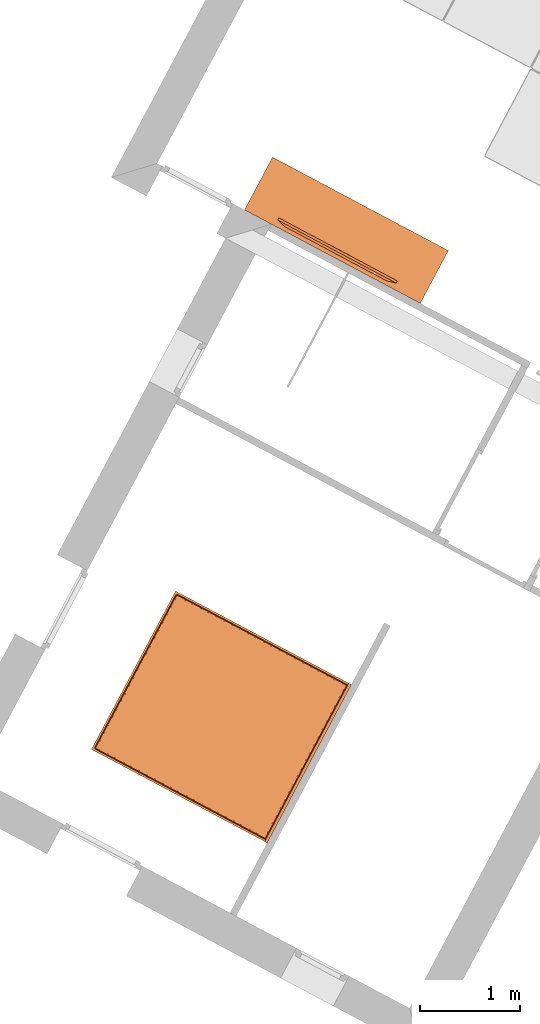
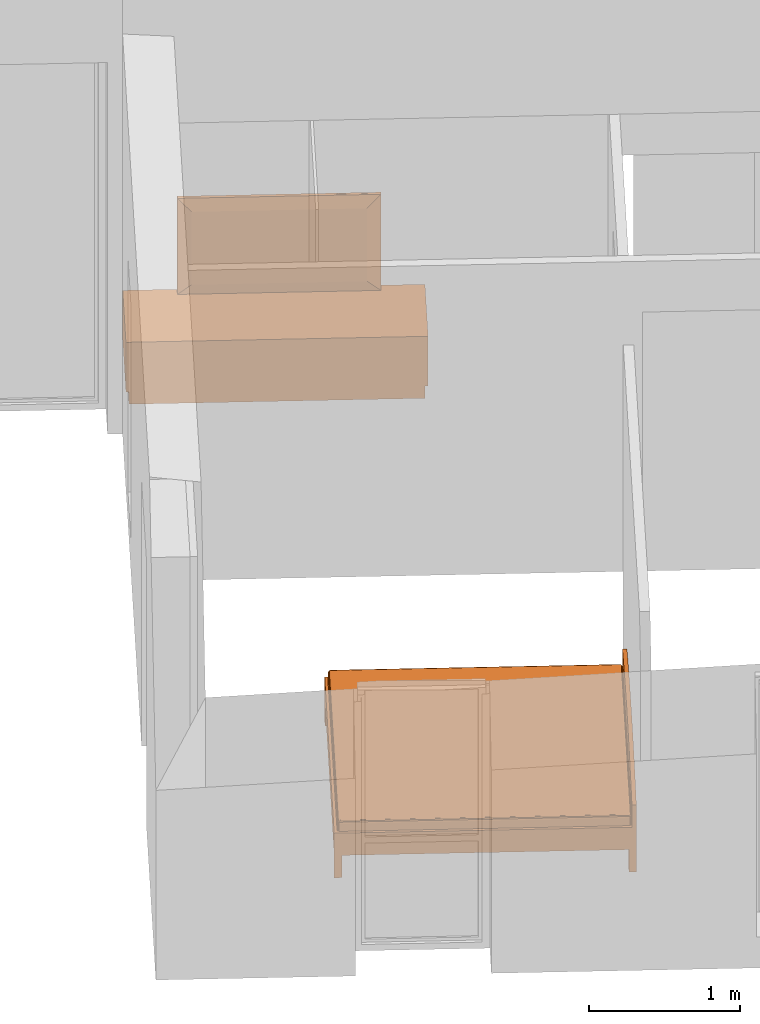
# One storey, part 18 of 27: 3 proxies.
"""IFC2X3 building model written with IfcOpenShell, lengths in metres."""

import ifcopenshell
import ifcopenshell.guid

model = None  # the IFC model being written
_history = None  # IfcOwnerHistory: only IFC2X3 demands one
_inside = {}  # id of a spatial element -> (the spatial element, [elements in it])
_under = {}  # id of a project, library or spatial element -> (it, [spatial elements below it])
_declared = {}  # id of a project -> (the project, [libraries it declares])
_typed = {}  # id of a type object -> (the type object, [elements of that type])
_made_of = {}  # id of a material, layer set ... -> (it, [elements and type objects made of it])


def new_model(schema):
    """Start an empty IFC model of exactly this schema.

    Asked for "IFC4X3", IfcOpenShell would pick the latest addendum, in which some entities
    have other attributes; the version numbers below select the first issue.
    IFC2X3 requires an IfcOwnerHistory on every rooted entity: one is made here for all.
    """
    global model, _history
    if schema == "IFC4X3":
        model = ifcopenshell.file(schema_version=(4, 3, 0, 0))
    else:
        model = ifcopenshell.file(schema=schema)
    _inside.clear()
    _under.clear()
    _declared.clear()
    _typed.clear()
    _made_of.clear()
    _history = None
    if model.schema == "IFC2X3":
        org = make("IfcOrganization", Name="unknown")
        user = make(
            "IfcPersonAndOrganization",
            ThePerson=make("IfcPerson", FamilyName="unknown"),
            TheOrganization=org,
        )
        app = make(
            "IfcApplication",
            ApplicationDeveloper=org,
            Version="unknown",
            ApplicationFullName="unknown",
            ApplicationIdentifier="unknown",
        )
        _history = make(
            "IfcOwnerHistory",
            OwningUser=user,
            OwningApplication=app,
            ChangeAction="ADDED",
            CreationDate=0,
        )
    return model


def make(cls, **values):
    """One entity of the class cls with the attributes given. An attribute that is None is left unset."""
    return model.create_entity(
        cls, **{name: value for name, value in values.items() if value is not None}
    )


def entity(cls, *values):
    """Any entity or typed value of the class cls, its attributes in the order of the schema. None: left unset."""
    e = model.create_entity(cls)
    for i, value in enumerate(values):
        if value is not None:
            e[i] = value
    return e


def rooted(cls, **values):
    """An entity with a GlobalId (a new one), such as an element, a storey or a relation."""
    return make(cls, GlobalId=ifcopenshell.guid.new(), OwnerHistory=_history, **values)


def si_unit(unit_type, name, prefix=None):
    """IfcSIUnit, for example si_unit("LENGTHUNIT", "METRE", prefix="MILLI")."""
    return make("IfcSIUnit", UnitType=unit_type, Prefix=prefix, Name=name)


def converted_unit(unit_type, name, factor, base, dimensions=None, offset=None):
    """IfcConversionBasedUnit, such as the inch: factor (a typed value) times the base unit."""
    return make(
        "IfcConversionBasedUnit"
        if offset is None
        else "IfcConversionBasedUnitWithOffset",
        ConversionOffset=offset,
        Dimensions=None
        if dimensions is None
        else entity("IfcDimensionalExponents", *dimensions),
        UnitType=unit_type,
        Name=name,
        ConversionFactor=make(
            "IfcMeasureWithUnit", ValueComponent=factor, UnitComponent=base
        ),
    )


def derived_unit(unit_type, elements):
    """IfcDerivedUnit: a product of units, each with its exponent."""
    return make(
        "IfcDerivedUnit",
        Elements=[
            make("IfcDerivedUnitElement", Unit=unit, Exponent=power)
            for unit, power in elements
        ],
        UnitType=unit_type,
    )


def money_unit(currency):
    """IfcMonetaryUnit."""
    return make("IfcMonetaryUnit", Currency=currency)


def assignment(units):
    """IfcUnitAssignment: the units of a project."""
    return None if units is None else make("IfcUnitAssignment", Units=units)


def point(xyz):
    """IfcCartesianPoint."""
    return None if xyz is None else make("IfcCartesianPoint", Coordinates=xyz)


def direction(xyz):
    """IfcDirection."""
    return None if xyz is None else make("IfcDirection", DirectionRatios=xyz)


def frame(location, z_axis=None, x_axis=None):
    """IfcAxis2Placement3D, a coordinate frame: its origin and axes. An axis left out is left unset."""
    return make(
        "IfcAxis2Placement3D",
        Location=point(location),
        Axis=direction(z_axis),
        RefDirection=direction(x_axis),
    )


def origin_with_axes():
    """The frame at (0, 0, 0) with the z axis (0, 0, 1) and the x axis (1, 0, 0) written out."""
    return frame((0.0, 0.0, 0.0), z_axis=(0.0, 0.0, 1.0), x_axis=(1.0, 0.0, 0.0))


def place(relative_to, where):
    """IfcLocalPlacement: puts the frame where relative to a parent placement (None: the world)."""
    return make(
        "IfcLocalPlacement", PlacementRelTo=relative_to, RelativePlacement=where
    )


def context(
    kind, dimensions, precision=None, world=None, true_north=None, identifier=None
):
    """IfcGeometricRepresentationContext, for example the 3D "Model" context."""
    return make(
        "IfcGeometricRepresentationContext",
        ContextIdentifier=identifier,
        ContextType=kind,
        CoordinateSpaceDimension=dimensions,
        Precision=precision,
        WorldCoordinateSystem=world,
        TrueNorth=true_north,
    )


def subcontext(parent, identifier, kind, view, scale=None):
    """IfcGeometricRepresentationSubContext, for example "Body" below "Model"."""
    return make(
        "IfcGeometricRepresentationSubContext",
        ContextIdentifier=identifier,
        ContextType=kind,
        ParentContext=parent,
        TargetScale=scale,
        TargetView=view,
    )


def project(units=None, contexts=None):
    """IfcProject with its units and contexts."""
    return rooted(
        "IfcProject",
        Name="project",
        RepresentationContexts=contexts,
        UnitsInContext=assignment(units),
    )


def spatial(cls, under=None, at=None, **own):
    """A site, building, storey or space (cls), placed at a placement, below another one or the project."""
    s = rooted(cls, ObjectPlacement=at, **own)
    if under is not None:
        _under.setdefault(under.id(), (under, []))[1].append(s)
    return s


def faces_of(points, faces, orient=None, outer=None):
    """IfcFace entities. A face is a list of loops; a loop is a list of indices into points, from 0.

    orient and outer hold one flag for each loop. By default every Orientation is true, the
    first loop of a face is its IfcFaceOuterBound and the others are IfcFaceBound.
    """
    made = []
    for i, loops in enumerate(faces):
        bounds = []
        for j, loop in enumerate(loops):
            is_outer = j == 0 if outer is None else outer[i][j]
            bounds.append(
                make(
                    "IfcFaceOuterBound" if is_outer else "IfcFaceBound",
                    Bound=make("IfcPolyLoop", Polygon=[points[k] for k in loop]),
                    Orientation=True if orient is None else orient[i][j],
                )
            )
        made.append(make("IfcFace", Bounds=bounds))
    return made


def faceted_brep(points, faces, orient=None, outer=None, voids=None):
    """IfcFacetedBrep: a solid bounded by flat faces; with voids (closed shells), ...WithVoids."""
    shared = [point(p) for p in points]
    hull = make("IfcClosedShell", CfsFaces=faces_of(shared, faces, orient, outer))
    if voids is None:
        return make("IfcFacetedBrep", Outer=hull)
    return make(
        "IfcFacetedBrepWithVoids",
        Outer=hull,
        Voids=[
            make(cls, CfsFaces=faces_of(shared, fs, o, b)) for cls, fs, o, b in voids
        ],
    )


def shape(context_of_items, identifier, shape_type, items):
    """IfcShapeRepresentation: the items that make up one representation, for example the "Body"."""
    return make(
        "IfcShapeRepresentation",
        ContextOfItems=context_of_items,
        RepresentationIdentifier=identifier,
        RepresentationType=shape_type,
        Items=items,
    )


def made_of(thing, what):
    """Note that an element or type object is made of a material, layer set ...; save() writes the relation."""
    if what is not None:
        _made_of.setdefault(what.id(), (what, []))[1].append(thing)
    return thing


def type_object(cls, material=None, **own):
    """A type object (cls), such as IfcWallType, which elements share."""
    return made_of(rooted(cls, **own), material)


def element(
    cls,
    number,
    at=None,
    inside=None,
    cuts=None,
    type_object=None,
    material=None,
    context=None,
    identifier="Body",
    shape_type=None,
    held_by="IfcProductDefinitionShape",
    body=None,
    shapes=None,
    **own,
):
    """One element of the class cls, such as IfcWall. Its Tag is "e" and its number.

    at: its placement. inside: the storey or other place that contains it. cuts: it is an
    opening in that element (IfcRelVoidsElement). A single representation is given by context,
    identifier, shape_type and body (its items); several are given by shapes. held_by: the class
    of the entity that holds the representations. save() writes the other relations.
    """
    e = rooted(cls, Tag="e%d" % number, ObjectPlacement=at, **own)
    if body is not None:
        shapes = [shape(context, identifier, shape_type, body)]
    if shapes is not None:
        e.Representation = make(held_by, Representations=shapes)
    if inside is not None:
        _inside.setdefault(inside.id(), (inside, []))[1].append(e)
    if cuts is not None:
        rooted(
            "IfcRelVoidsElement", RelatingBuildingElement=cuts, RelatedOpeningElement=e
        )
    if type_object is not None:
        _typed.setdefault(type_object.id(), (type_object, []))[1].append(e)
    return made_of(e, material)


def aggregate(whole, parts):
    """IfcRelAggregates: a whole, such as a stair, and the parts it consists of."""
    return rooted("IfcRelAggregates", RelatingObject=whole, RelatedObjects=parts)


def save(model, path):
    """Write the relations noted so far, then the file.

    IfcRelAggregates (storeys below a building ...), IfcRelContainedInSpatialStructure (elements
    in a storey), IfcRelDefinesByType, IfcRelAssociatesMaterial and IfcRelDeclares: one each for
    every whole, place, type object, material and project.
    """
    for whole, parts in _under.values():
        aggregate(whole, parts)
    for where, things in _inside.values():
        rooted(
            "IfcRelContainedInSpatialStructure",
            RelatedElements=things,
            RelatingStructure=where,
        )
    for kind, things in _typed.values():
        rooted("IfcRelDefinesByType", RelatedObjects=things, RelatingType=kind)
    for what, things in _made_of.values():
        rooted("IfcRelAssociatesMaterial", RelatedObjects=things, RelatingMaterial=what)
    for by, libraries in _declared.values():
        rooted("IfcRelDeclares", RelatingContext=by, RelatedDefinitions=libraries)
    model.write(path)


model = new_model("IFC2X3")

# Units and contexts
model_context = context("Model", 3, precision=1e-05, world=origin_with_axes(), true_north=direction((0.0, 1.0)))
body_context = subcontext(model_context, "Body", "Model", "MODEL_VIEW")
ifc_project = project(units=[si_unit("LENGTHUNIT", "METRE"), si_unit("AREAUNIT", "SQUARE_METRE"), si_unit("VOLUMEUNIT", "CUBIC_METRE"), converted_unit("PLANEANGLEUNIT", "DEGREE", entity("IfcPlaneAngleMeasure", 0.0174532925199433), si_unit("PLANEANGLEUNIT", "RADIAN"), dimensions=[0, 0, 0, 0, 0, 0, 0]), money_unit("CHF"), converted_unit("TIMEUNIT", "Year", entity("IfcTimeMeasure", 31557600.0), si_unit("TIMEUNIT", "SECOND"), dimensions=[0, 0, 1, 0, 0, 0, 0]), si_unit("MASSUNIT", "GRAM", prefix="KILO"), si_unit("THERMODYNAMICTEMPERATUREUNIT", "DEGREE_CELSIUS"), si_unit("LUMINOUSINTENSITYUNIT", "LUMEN"), si_unit("ENERGYUNIT", "JOULE", prefix="MEGA"), derived_unit("THERMALCONDUCTANCEUNIT", [(si_unit("POWERUNIT", "WATT"), 1), (si_unit("LENGTHUNIT", "METRE"), -1), (si_unit("THERMODYNAMICTEMPERATUREUNIT", "KELVIN"), -1)]), derived_unit("SPECIFICHEATCAPACITYUNIT", [(si_unit("ENERGYUNIT", "JOULE"), 1), (si_unit("MASSUNIT", "GRAM", prefix="KILO"), -1), (si_unit("THERMODYNAMICTEMPERATUREUNIT", "KELVIN"), -1)]), derived_unit("MASSDENSITYUNIT", [(si_unit("MASSUNIT", "GRAM", prefix="KILO"), 1), (si_unit("VOLUMEUNIT", "CUBIC_METRE"), -1)])], contexts=[model_context])

# Site, building, storey
site_placement = place(None, frame((0.0, 0.0, 0.0), z_axis=(0.0, 0.0, 1.0), x_axis=(-0.4694715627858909, -0.8829475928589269, 0.0)))
site = spatial("IfcSite", under=ifc_project, at=site_placement, Name="Site", CompositionType="ELEMENT")
building_placement = place(site_placement, origin_with_axes())
building = spatial("IfcBuilding", under=site, at=building_placement, Name="Bâtiment", CompositionType="ELEMENT")
storey_placement = place(building_placement, origin_with_axes())
storey = spatial("IfcBuildingStorey", under=building, at=storey_placement, Name="RDC", CompositionType="ELEMENT", Elevation=0.0)

# Proxies
building_element_proxy_type_1 = type_object("IfcBuildingElementProxyType", Name="Lit double 02 12", PredefinedType="NOTDEFINED")
proxy_1_placement = place(storey_placement, frame((146.8938989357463, -834.6745991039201, 0.0), z_axis=(0.0, 0.0, 1.0), x_axis=(1.0, 0.0, 0.0)))
element("IfcBuildingElementProxy", 1, at=proxy_1_placement, inside=storey, type_object=building_element_proxy_type_1, Name="Obj.-633", context=body_context, shape_type="Brep", body=[
    faceted_brep([(0.0, 2.0, 0.18), (1.8, 2.0, 0.18), (1.8, 1.97, 0.18), (0.0, 1.97, 0.18), (0.0, 2.0, 0.5399999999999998), (0.1977328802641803, 2.0, 0.5794084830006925), (0.3971640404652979, 2.0, 0.6090485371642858), (0.597811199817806, 2.0, 0.6288484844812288), (0.7991891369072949, 2.0, 0.6387604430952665), (1.000810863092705, 2.0, 0.6387604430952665), (1.202188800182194, 2.0, 0.6288484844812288), (1.402835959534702, 2.0, 0.6090485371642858), (1.60226711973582, 2.0, 0.5794084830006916), (1.8, 2.0, 0.54), (1.8, 2.0, 0.5399), (1.8, 1.97, 0.5399), (1.8, 1.97, 0.54), (1.60226711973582, 1.97, 0.5794084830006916), (1.402835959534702, 1.97, 0.6090485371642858), (1.202188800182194, 1.97, 0.6288484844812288), (1.000810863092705, 1.97, 0.6387604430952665), (0.7991891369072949, 1.97, 0.6387604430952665), (0.597811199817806, 1.97, 0.6288484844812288), (0.3971640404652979, 1.97, 0.6090485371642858), (0.1977328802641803, 1.97, 0.5794084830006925), (0.0, 1.97, 0.5399999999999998)], [[[0, 1, 2, 3]], [[0, 4, 5, 6, 7, 8, 9, 10, 11, 12, 13, 14, 1]], [[1, 14, 15, 2]], [[3, 2, 15, 16, 17, 18, 19, 20, 21, 22, 23, 24, 25]], [[4, 0, 3, 25]], [[5, 4, 25, 24]], [[6, 5, 24, 23]], [[7, 6, 23, 22]], [[8, 7, 22, 21]], [[9, 8, 21, 20]], [[10, 9, 20, 19]], [[11, 10, 19, 18]], [[12, 11, 18, 17]], [[13, 12, 17, 16]], [[14, 13, 16, 15]]]),
    faceted_brep([(0.05, 0.0, 0.0), (0.0, 0.0, 0.0), (0.0, 0.05, 0.0), (0.05, 0.05, 0.0), (0.05, 0.0, 0.18), (0.0, 0.0, 0.18), (0.0, 0.05, 0.18), (0.05, 0.05, 0.18)], [[[0, 1, 2, 3]], [[1, 0, 4, 5]], [[2, 1, 5, 6]], [[3, 2, 6, 7]], [[0, 3, 7, 4]], [[5, 4, 7, 6]]]),
    faceted_brep([(1.8, 0.0, 0.0), (1.75, 0.0, 0.0), (1.75, 0.05, 0.0), (1.8, 0.05, 0.0), (1.8, 0.0, 0.18), (1.75, 0.0, 0.18), (1.75, 0.05, 0.18), (1.8, 0.05, 0.18)], [[[0, 1, 2, 3]], [[1, 0, 4, 5]], [[2, 1, 5, 6]], [[3, 2, 6, 7]], [[0, 3, 7, 4]], [[5, 4, 7, 6]]]),
    faceted_brep([(0.05, 1.95, 0.0), (0.0, 1.95, 0.0), (0.0, 2.0, 0.0), (0.05, 2.0, 0.0), (0.05, 1.95, 0.18), (0.0, 1.95, 0.18), (0.0, 2.0, 0.18), (0.05, 2.0, 0.18)], [[[0, 1, 2, 3]], [[1, 0, 4, 5]], [[2, 1, 5, 6]], [[3, 2, 6, 7]], [[0, 3, 7, 4]], [[5, 4, 7, 6]]]),
    faceted_brep([(1.8, 1.95, 0.0), (1.75, 1.95, 0.0), (1.75, 2.0, 0.0), (1.8, 2.0, 0.0), (1.8, 1.95, 0.18), (1.75, 1.95, 0.18), (1.75, 2.0, 0.18), (1.8, 2.0, 0.18)], [[[0, 1, 2, 3]], [[1, 0, 4, 5]], [[2, 1, 5, 6]], [[3, 2, 6, 7]], [[0, 3, 7, 4]], [[5, 4, 7, 6]]]),
    faceted_brep([(1.8, 0.0, 0.18), (0.0, 0.0, 0.18), (0.0, 1.97, 0.18), (1.8, 1.97, 0.18), (1.8, 0.0, 0.36), (0.0, 0.0, 0.36), (0.0, 1.97, 0.36), (1.8, 1.97, 0.36)], [[[0, 1, 2, 3]], [[1, 0, 4, 5]], [[2, 1, 5, 6]], [[3, 2, 6, 7]], [[0, 3, 7, 4]], [[5, 4, 7, 6]]]),
    faceted_brep([(0.02, 0.04195, 0.41), (0.02, 1.95, 0.41), (0.02152240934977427, 1.957653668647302, 0.41), (0.02585786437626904, 1.964142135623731, 0.41), (0.03234633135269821, 1.968477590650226, 0.41), (0.04, 1.97, 0.41), (0.04176000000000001, 1.97, 0.41), (1.76, 1.97, 0.41), (1.767653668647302, 1.968477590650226, 0.41), (1.774142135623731, 1.964142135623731, 0.41), (1.778477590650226, 1.957653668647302, 0.41), (1.78, 1.95, 0.41), (1.78, 1.94805, 0.41), (1.78, 0.04, 0.41), (1.778477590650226, 0.03234633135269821, 0.41), (1.774142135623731, 0.02585786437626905, 0.41), (1.767653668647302, 0.02152240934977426, 0.41), (1.76, 0.02, 0.41), (1.75824, 0.02, 0.41), (0.04000000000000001, 0.02, 0.41), (0.03234633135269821, 0.02152240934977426, 0.41), (0.02585786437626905, 0.02585786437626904, 0.41), (0.02152240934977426, 0.03234633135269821, 0.41), (0.02, 0.04, 0.41), (0.01999999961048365, 0.04194999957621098, 0.42), (0.01999999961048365, 1.950000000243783, 0.42), (0.0215224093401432, 1.957653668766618, 0.42), (0.02585786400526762, 1.964142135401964, 0.42), (0.03234633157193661, 1.968477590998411, 0.42), (0.04000000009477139, 1.969999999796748, 0.42), (0.04176000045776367, 1.969999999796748, 0.42), (1.759999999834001, 1.969999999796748, 0.42), (1.767653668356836, 1.968477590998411, 0.42), (1.774142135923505, 1.964142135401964, 0.42), (1.778477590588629, 1.957653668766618, 0.42), (1.780000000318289, 1.950000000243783, 0.42), (1.780000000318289, 1.948049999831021, 0.42), (1.780000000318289, 0.04000000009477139, 0.42), (1.778477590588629, 0.03234633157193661, 0.42), (1.774142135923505, 0.02585786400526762, 0.42), (1.767653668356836, 0.0215224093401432, 0.42), (1.759999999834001, 0.01999999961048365, 0.42), (1.758240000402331, 0.01999999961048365, 0.42), (0.04000000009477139, 0.01999999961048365, 0.42), (0.03234633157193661, 0.0215224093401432, 0.42), (0.02585786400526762, 0.02585786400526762, 0.42), (0.0215224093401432, 0.03234633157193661, 0.42), (0.01999999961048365, 0.04000000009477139, 0.42), (0.02038429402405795, 0.04194999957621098, 0.4239018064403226), (0.02038429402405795, 1.949962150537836, 0.4239018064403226), (0.0218844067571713, 1.957503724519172, 0.4239018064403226), (0.02613492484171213, 1.963865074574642, 0.4239018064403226), (0.03249627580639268, 1.968115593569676, 0.4239018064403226), (0.04003784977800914, 1.969615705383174, 0.4239018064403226), (0.04176000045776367, 1.969615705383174, 0.4239018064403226), (1.759962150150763, 1.969615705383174, 0.4239018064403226), (1.76750372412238, 1.968115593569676, 0.4239018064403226), (1.77386507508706, 1.963865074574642, 0.4239018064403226), (1.778115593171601, 1.957503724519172, 0.4239018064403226), (1.779615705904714, 1.949962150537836, 0.4239018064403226), (1.779615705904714, 1.948049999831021, 0.4239018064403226), (1.779615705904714, 0.04003784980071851, 0.4239018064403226), (1.778115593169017, 0.03249627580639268, 0.4239018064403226), (1.77386507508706, 0.02613492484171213, 0.4239018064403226), (1.76750372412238, 0.02188440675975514, 0.4239018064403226), (1.759962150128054, 0.02038429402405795, 0.4239018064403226), (1.758240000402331, 0.02038429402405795, 0.4239018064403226), (0.04003784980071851, 0.02038429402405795, 0.4239018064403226), (0.03249627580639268, 0.02188440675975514, 0.4239018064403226), (0.02613492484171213, 0.02613492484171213, 0.4239018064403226), (0.02188440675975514, 0.03249627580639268, 0.4239018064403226), (0.02038429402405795, 0.04003784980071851, 0.4239018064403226), (0.02337060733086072, 0.04194999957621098, 0.4311114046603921), (0.02337060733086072, 1.949668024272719, 0.4311114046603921), (0.02469745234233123, 1.956338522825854, 0.4311114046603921), (0.02828793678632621, 1.961712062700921, 0.4311114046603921), (0.03366147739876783, 1.965302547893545, 0.4311114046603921), (0.04033197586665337, 1.966629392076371, 0.4311114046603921), (0.04176000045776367, 1.966629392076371, 0.4311114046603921), (1.759668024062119, 1.966629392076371, 0.4311114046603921), (1.766338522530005, 1.965302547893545, 0.4311114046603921), (1.771712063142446, 1.961712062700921, 0.4311114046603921), (1.775302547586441, 1.956338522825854, 0.4311114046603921), (1.776629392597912, 1.949668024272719, 0.4311114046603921), (1.776629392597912, 1.948049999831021, 0.4311114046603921), (1.776629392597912, 0.04033197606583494, 0.4311114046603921), (1.775302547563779, 0.03366147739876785, 0.4311114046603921), (1.771712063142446, 0.02828793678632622, 0.4311114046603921), (1.766338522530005, 0.02469745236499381, 0.4311114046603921), (1.759668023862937, 0.02337060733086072, 0.4311114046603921), (1.758240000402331, 0.02337060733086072, 0.4311114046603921), (0.04033197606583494, 0.02337060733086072, 0.4311114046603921), (0.03366147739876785, 0.02469745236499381, 0.4311114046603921), (0.02828793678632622, 0.02828793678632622, 0.4311114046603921), (0.02469745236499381, 0.03366147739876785, 0.4311114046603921), (0.02337060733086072, 0.04033197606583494, 0.4311114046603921), (0.02888859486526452, 0.04194999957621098, 0.4366293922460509), (0.02888859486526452, 1.949124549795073, 0.4366293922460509), (0.02989528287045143, 1.954185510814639, 0.4366293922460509), (0.032266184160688, 1.957733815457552, 0.4366293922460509), (0.03581448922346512, 1.960104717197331, 0.4366293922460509), (0.04087545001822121, 1.961111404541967, 0.4366293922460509), (0.04176000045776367, 1.961111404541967, 0.4366293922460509), (1.759124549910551, 1.961111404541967, 0.4366293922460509), (1.764185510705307, 1.960104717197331, 0.4366293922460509), (1.767733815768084, 1.957733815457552, 0.4366293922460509), (1.770104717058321, 1.954185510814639, 0.4366293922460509), (1.771111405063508, 1.949124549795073, 0.4366293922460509), (1.771111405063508, 1.948049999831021, 0.4366293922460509), (1.771111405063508, 0.04087545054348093, 0.4366293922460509), (1.770104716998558, 0.03581448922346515, 0.4366293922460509), (1.767733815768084, 0.03226618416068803, 0.4366293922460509), (1.764185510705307, 0.02989528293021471, 0.4366293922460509), (1.759124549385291, 0.02888859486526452, 0.4366293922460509), (1.758240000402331, 0.02888859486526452, 0.4366293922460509), (0.04087545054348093, 0.02888859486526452, 0.4366293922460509), (0.03581448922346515, 0.02989528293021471, 0.4366293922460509), (0.03226618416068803, 0.03226618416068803, 0.4366293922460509), (0.02989528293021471, 0.03581448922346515, 0.4366293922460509), (0.02888859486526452, 0.04087545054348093, 0.4366293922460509), (0.03609819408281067, 0.04194999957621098, 0.4396157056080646), (0.03609819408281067, 1.948414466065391, 0.4396157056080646), (0.03668657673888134, 1.951372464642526, 0.4396157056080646), (0.03746401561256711, 1.952535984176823, 0.4396157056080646), (0.0386275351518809, 1.953313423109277, 0.4396157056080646), (0.04158553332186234, 1.953901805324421, 0.4396157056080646), (0.04176000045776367, 1.953901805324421, 0.4396157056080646), (1.75841446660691, 1.953901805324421, 0.4396157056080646), (1.761372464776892, 1.953313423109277, 0.4396157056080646), (1.762535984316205, 1.952535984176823, 0.4396157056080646), (1.763313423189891, 1.951372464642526, 0.4396157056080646), (1.763901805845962, 1.948414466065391, 0.4396157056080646), (1.763901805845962, 1.948049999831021, 0.4396157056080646), (1.763901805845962, 0.04158553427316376, 0.4396157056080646), (1.763313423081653, 0.03862753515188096, 0.4396157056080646), (1.762535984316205, 0.03746401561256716, 0.4396157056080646), (1.761372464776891, 0.03668657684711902, 0.4396157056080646), (1.758414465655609, 0.03609819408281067, 0.4396157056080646), (1.758240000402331, 0.03609819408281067, 0.4396157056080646), (0.04158553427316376, 0.03609819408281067, 0.4396157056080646), (0.03862753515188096, 0.03668657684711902, 0.4396157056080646), (0.03746401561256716, 0.03746401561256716, 0.4396157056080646), (0.03668657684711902, 0.03862753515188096, 0.4396157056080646), (0.03609819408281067, 0.04158553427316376, 0.4396157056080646), (0.03979867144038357, 0.04194999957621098, 0.4399801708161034), (0.0400000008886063, 0.04196982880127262, 0.4400000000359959), (0.0400000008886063, 1.948030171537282, 0.4400000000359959), (0.04032681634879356, 1.94967318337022, 0.4400000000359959), (0.03999999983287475, 1.950000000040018, 0.4399621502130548), (0.04196982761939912, 1.949999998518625, 0.4400000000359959), (0.04176000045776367, 1.952130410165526, 0.4397901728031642), (1.758030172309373, 1.949999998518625, 0.4400000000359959), (1.759673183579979, 1.94967318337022, 0.4400000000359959), (1.759999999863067, 1.949999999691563, 0.4399621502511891), (1.759999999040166, 1.948030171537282, 0.4400000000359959), (1.760201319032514, 1.948049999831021, 0.4399801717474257), (1.759999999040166, 0.04196982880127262, 0.4400000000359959), (1.75967318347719, 0.04032681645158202, 0.4400000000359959), (1.760000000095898, 0.03999999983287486, 0.4399621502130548), (1.7580301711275, 0.0400000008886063, 0.4400000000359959), (1.758240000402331, 0.03786956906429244, 0.4397901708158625), (0.04196982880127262, 0.0400000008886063, 0.4400000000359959), (0.04032681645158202, 0.04032681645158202, 0.4400000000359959), (0.03999999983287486, 0.03999999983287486, 0.4399621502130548)], [[[0, 1, 2, 3, 4, 5, 6, 7, 8, 9, 10, 11, 12, 13, 14, 15, 16, 17, 18, 19, 20, 21, 22, 23]], [[1, 0, 24, 25]], [[2, 1, 25, 26]], [[3, 2, 26, 27]], [[4, 3, 27, 28]], [[5, 4, 28, 29]], [[6, 5, 29, 30]], [[7, 6, 30, 31]], [[8, 7, 31, 32]], [[9, 8, 32, 33]], [[10, 9, 33, 34]], [[11, 10, 34, 35]], [[12, 11, 35, 36]], [[13, 12, 36, 37]], [[14, 13, 37, 38]], [[15, 14, 38, 39]], [[16, 15, 39, 40]], [[17, 16, 40, 41]], [[18, 17, 41, 42]], [[19, 18, 42, 43]], [[20, 19, 43, 44]], [[21, 20, 44, 45]], [[22, 21, 45, 46]], [[23, 22, 46, 47]], [[0, 23, 47, 24]], [[25, 24, 48, 49]], [[26, 25, 49, 50]], [[27, 26, 50, 51]], [[28, 27, 51, 52]], [[29, 28, 52, 53]], [[30, 29, 53, 54]], [[31, 30, 54, 55]], [[32, 31, 55, 56]], [[33, 32, 56, 57]], [[34, 33, 57, 58]], [[35, 34, 58, 59]], [[36, 35, 59, 60]], [[37, 36, 60, 61]], [[38, 37, 61, 62]], [[39, 38, 62, 63]], [[40, 39, 63, 64]], [[41, 40, 64, 65]], [[42, 41, 65, 66]], [[43, 42, 66, 67]], [[44, 43, 67, 68]], [[45, 44, 68, 69]], [[46, 45, 69, 70]], [[47, 46, 70, 71]], [[24, 47, 71, 48]], [[49, 48, 72, 73]], [[50, 49, 73, 74]], [[51, 50, 74, 75]], [[52, 51, 75, 76]], [[53, 52, 76, 77]], [[54, 53, 77, 78]], [[55, 54, 78, 79]], [[56, 55, 79, 80]], [[57, 56, 80, 81]], [[58, 57, 81, 82]], [[59, 58, 82, 83]], [[60, 59, 83, 84]], [[61, 60, 84, 85]], [[62, 61, 85, 86]], [[63, 62, 86, 87]], [[64, 63, 87, 88]], [[65, 64, 88, 89]], [[66, 65, 89, 90]], [[67, 66, 90, 91]], [[68, 67, 91, 92]], [[69, 68, 92, 93]], [[70, 69, 93, 94]], [[71, 70, 94, 95]], [[48, 71, 95, 72]], [[73, 72, 96, 97]], [[74, 73, 97, 98]], [[75, 74, 98, 99]], [[76, 75, 99, 100]], [[77, 76, 100, 101]], [[78, 77, 101, 102]], [[79, 78, 102, 103]], [[80, 79, 103, 104]], [[81, 80, 104, 105]], [[82, 81, 105, 106]], [[83, 82, 106, 107]], [[84, 83, 107, 108]], [[85, 84, 108, 109]], [[86, 85, 109, 110]], [[87, 86, 110, 111]], [[88, 87, 111, 112]], [[89, 88, 112, 113]], [[90, 89, 113, 114]], [[91, 90, 114, 115]], [[92, 91, 115, 116]], [[93, 92, 116, 117]], [[94, 93, 117, 118]], [[95, 94, 118, 119]], [[72, 95, 119, 96]], [[97, 96, 120, 121]], [[98, 97, 121, 122]], [[99, 98, 122, 123]], [[100, 99, 123, 124]], [[101, 100, 124, 125]], [[102, 101, 125, 126]], [[103, 102, 126, 127]], [[104, 103, 127, 128]], [[105, 104, 128, 129]], [[106, 105, 129, 130]], [[107, 106, 130, 131]], [[108, 107, 131, 132]], [[109, 108, 132, 133]], [[110, 109, 133, 134]], [[111, 110, 134, 135]], [[112, 111, 135, 136]], [[113, 112, 136, 137]], [[114, 113, 137, 138]], [[115, 114, 138, 139]], [[116, 115, 139, 140]], [[117, 116, 140, 141]], [[118, 117, 141, 142]], [[119, 118, 142, 143]], [[96, 119, 143, 120]], [[121, 120, 144, 145, 146]], [[122, 121, 146, 147, 148]], [[123, 122, 148]], [[124, 123, 148]], [[125, 124, 148, 147, 149, 150]], [[126, 125, 150]], [[127, 126, 150, 149, 151]], [[128, 127, 151, 152, 153]], [[129, 128, 153]], [[130, 129, 153]], [[131, 130, 153, 152, 154, 155]], [[132, 131, 155]], [[133, 132, 155, 154, 156]], [[134, 133, 156, 157, 158]], [[135, 134, 158]], [[136, 135, 158]], [[137, 136, 158, 157, 159, 160]], [[138, 137, 160]], [[139, 138, 160, 159, 161]], [[140, 139, 161, 162, 163]], [[141, 140, 163]], [[142, 141, 163]], [[143, 142, 163, 162, 145, 144]], [[120, 143, 144]], [[147, 146, 145, 162, 161, 159, 157, 156, 154, 152, 151, 149]]]),
    faceted_brep([(0.02, 0.04, 0.36), (0.02, 0.04, 0.41), (0.02, 0.04195, 0.41), (0.02, 0.04195, 0.36), (0.02152240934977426, 0.03234633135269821, 0.36), (0.02152240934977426, 0.03234633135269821, 0.41), (0.02585786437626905, 0.02585786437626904, 0.41), (0.03234633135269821, 0.02152240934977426, 0.41), (0.04000000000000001, 0.02, 0.41), (1.75824, 0.02, 0.41), (1.76, 0.02, 0.41), (1.767653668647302, 0.02152240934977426, 0.41), (1.774142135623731, 0.02585786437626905, 0.41), (1.778477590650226, 0.03234633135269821, 0.41), (1.78, 0.04, 0.41), (1.78, 1.94805, 0.41), (1.78, 1.95, 0.41), (1.778477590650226, 1.957653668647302, 0.41), (1.774142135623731, 1.964142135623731, 0.41), (1.767653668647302, 1.968477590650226, 0.41), (1.76, 1.97, 0.41), (0.04176000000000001, 1.97, 0.41), (0.04, 1.97, 0.41), (0.03234633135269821, 1.968477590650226, 0.41), (0.02585786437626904, 1.964142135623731, 0.41), (0.02152240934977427, 1.957653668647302, 0.41), (0.02, 1.95, 0.41), (0.02, 1.95, 0.3599999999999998), (0.02152240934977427, 1.957653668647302, 0.3599999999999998), (0.02585786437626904, 1.964142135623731, 0.3599999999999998), (0.03234633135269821, 1.968477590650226, 0.3599999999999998), (0.04, 1.97, 0.3599999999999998), (0.04176000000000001, 1.97, 0.3599999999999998), (1.76, 1.97, 0.3599999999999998), (1.767653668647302, 1.968477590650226, 0.3599999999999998), (1.774142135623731, 1.964142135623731, 0.3599999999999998), (1.778477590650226, 1.957653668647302, 0.3599999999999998), (1.78, 1.95, 0.3599999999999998), (1.78, 1.94805, 0.3599999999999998), (1.78, 0.04, 0.36), (1.778477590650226, 0.03234633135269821, 0.36), (1.774142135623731, 0.02585786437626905, 0.36), (1.767653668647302, 0.02152240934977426, 0.36), (1.76, 0.02, 0.36), (1.75824, 0.02, 0.36), (0.04000000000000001, 0.02, 0.36), (0.03234633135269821, 0.02152240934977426, 0.36), (0.02585786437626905, 0.02585786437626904, 0.36)], [[[0, 1, 2, 3]], [[4, 5, 1, 0]], [[2, 1, 5, 6, 7, 8, 9, 10, 11, 12, 13, 14, 15, 16, 17, 18, 19, 20, 21, 22, 23, 24, 25, 26]], [[3, 2, 26, 27]], [[3, 27, 28, 29, 30, 31, 32, 33, 34, 35, 36, 37, 38, 39, 40, 41, 42, 43, 44, 45, 46, 47, 4, 0]], [[47, 6, 5, 4]], [[46, 7, 6, 47]], [[45, 8, 7, 46]], [[44, 9, 8, 45]], [[43, 10, 9, 44]], [[42, 11, 10, 43]], [[41, 12, 11, 42]], [[40, 13, 12, 41]], [[39, 14, 13, 40]], [[38, 15, 14, 39]], [[37, 16, 15, 38]], [[36, 17, 16, 37]], [[35, 18, 17, 36]], [[34, 19, 18, 35]], [[33, 20, 19, 34]], [[32, 21, 20, 33]], [[31, 22, 21, 32]], [[30, 23, 22, 31]], [[29, 24, 23, 30]], [[28, 25, 24, 29]], [[27, 26, 25, 28]]]),
])
building_element_proxy_type_2 = type_object("IfcBuildingElementProxyType", Name="Meuble à plans 27", PredefinedType="NOTDEFINED")
proxy_2_placement = place(storey_placement, frame((142.5895710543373, -833.8605544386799, 0.0), z_axis=(0.0, 0.0, 1.0), x_axis=(0.0, -1.0, 0.0)))
element("IfcBuildingElementProxy", 2, at=proxy_2_placement, inside=storey, type_object=building_element_proxy_type_2, Name="Obj.-483", context=body_context, shape_type="Brep", body=[
    faceted_brep([(1.98, 0.02, 0.0), (0.02, 0.02, 0.0), (0.02, 0.6, 0.0), (1.98, 0.6, 0.0), (1.98, 0.02, 0.1), (0.02, 0.02, 0.1), (0.02, 0.6, 0.1), (1.98, 0.6, 0.1)], [[[0, 1, 2, 3]], [[1, 0, 4, 5]], [[2, 1, 5, 6]], [[3, 2, 6, 7]], [[0, 3, 7, 4]], [[5, 4, 7, 6]]]),
    faceted_brep([(0.0, 0.6, 0.09999999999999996), (2.0, 0.6, 0.09999999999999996), (2.0, 0.0, 0.1), (0.0, 0.0, 0.1), (0.0, 0.6, 0.5), (2.0, 0.6, 0.5), (0.02, 0.6, 0.12), (1.98, 0.6, 0.12), (1.98, 0.6, 0.48), (0.02, 0.6, 0.48), (2.0, 0.0, 0.5), (0.0, 0.0, 0.5), (0.02, 0.0, 0.12), (0.02, 0.0, 0.48), (1.98, 0.0, 0.48), (1.98, 0.0, 0.12)], [[[0, 1, 2, 3]], [[0, 4, 5, 1], [6, 7, 8, 9]], [[1, 5, 10, 2]], [[3, 2, 10, 11], [12, 13, 14, 15]], [[4, 0, 3, 11]], [[5, 4, 11, 10]], [[7, 6, 12, 15]], [[8, 7, 15, 14]], [[9, 8, 14, 13]], [[6, 9, 13, 12]]]),
    faceted_brep([(1.98, 0.6, 0.12), (0.02, 0.6, 0.12), (0.02, 0.6, 0.48), (1.98, 0.6, 0.48), (1.98, 0.58, 0.12), (0.02, 0.58, 0.12), (0.02, 0.58, 0.48), (1.98, 0.58, 0.48)], [[[0, 1, 2, 3]], [[1, 0, 4, 5]], [[2, 1, 5, 6]], [[3, 2, 6, 7]], [[0, 3, 7, 4]], [[5, 4, 7, 6]]]),
    faceted_brep([(1.98, 0.0, 0.12), (0.02, 0.0, 0.12), (0.02, 0.58, 0.12), (1.98, 0.58, 0.12), (1.98, 0.0, 0.205), (0.02, 0.0, 0.205), (0.02, 0.58, 0.205), (1.98, 0.58, 0.205)], [[[0, 1, 2, 3]], [[1, 0, 4, 5]], [[2, 1, 5, 6]], [[3, 2, 6, 7]], [[0, 3, 7, 4]], [[5, 4, 7, 6]]]),
    faceted_brep([(1.98, 0.0, 0.21), (0.02, 0.0, 0.21), (0.02, 0.58, 0.21), (1.98, 0.58, 0.21), (1.98, 0.0, 0.295), (0.02, 0.0, 0.295), (0.02, 0.58, 0.295), (1.98, 0.58, 0.295)], [[[0, 1, 2, 3]], [[1, 0, 4, 5]], [[2, 1, 5, 6]], [[3, 2, 6, 7]], [[0, 3, 7, 4]], [[5, 4, 7, 6]]]),
    faceted_brep([(1.98, 0.0, 0.3), (0.02, 0.0, 0.3), (0.02, 0.58, 0.3), (1.98, 0.58, 0.3), (1.98, 0.0, 0.385), (0.02, 0.0, 0.385), (0.02, 0.58, 0.385), (1.98, 0.58, 0.385)], [[[0, 1, 2, 3]], [[1, 0, 4, 5]], [[2, 1, 5, 6]], [[3, 2, 6, 7]], [[0, 3, 7, 4]], [[5, 4, 7, 6]]]),
    faceted_brep([(1.98, 0.0, 0.39), (0.02, 0.0, 0.39), (0.02, 0.58, 0.39), (1.98, 0.58, 0.39), (1.98, 0.0, 0.475), (0.02, 0.0, 0.475), (0.02, 0.58, 0.475), (1.98, 0.58, 0.475)], [[[0, 1, 2, 3]], [[1, 0, 4, 5]], [[2, 1, 5, 6]], [[3, 2, 6, 7]], [[0, 3, 7, 4]], [[5, 4, 7, 6]]]),
])
building_element_proxy_type_3 = type_object("IfcBuildingElementProxyType", Name="TV plate 27", PredefinedType="NOTDEFINED")
proxy_3_placement = place(storey_placement, frame((143.0982531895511, -834.1704543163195, 0.8320417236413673), z_axis=(0.0, 0.0, 1.0), x_axis=(0.0, -1.0, 0.0)))
element("IfcBuildingElementProxy", 3, at=proxy_3_placement, inside=storey, type_object=building_element_proxy_type_3, Name="Obj.-483", context=body_context, shape_type="Brep", body=[
    faceted_brep([(1.327363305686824, 0.0, 0.02), (1.327363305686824, 0.0009999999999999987, 0.02), (1.327363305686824, 0.0009999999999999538, 0.7553918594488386), (1.327363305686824, 0.0, 0.7553918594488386), (0.02, 0.0, 0.02), (0.02, 0.0009999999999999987, 0.02), (0.02, 0.0009999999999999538, 0.7553918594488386), (0.02, 0.0, 0.7553918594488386)], [[[0, 1, 2, 3]], [[4, 5, 1, 0]], [[1, 5, 6, 2]], [[3, 2, 6, 7]], [[0, 3, 7, 4]], [[7, 6, 5, 4]]]),
    faceted_brep([(1.347363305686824, 0.0, 0.7753918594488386), (0.0, 0.0, 0.7753918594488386), (0.0, 0.0, 0.0), (1.347363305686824, 0.0, 0.0), (0.02000000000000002, 0.0, 0.02000000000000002), (0.02000000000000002, 0.0, 0.7553918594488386), (1.327363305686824, 0.0, 0.7553918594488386), (1.327363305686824, 0.0, 0.02000000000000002), (1.347363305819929, 0.02499999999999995, 0.7753918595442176), (-3.895163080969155e-10, 0.02499999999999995, 0.7753918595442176), (-3.895163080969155e-10, 0.025, -3.895163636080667e-10), (1.347363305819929, 0.025, -3.895163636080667e-10), (0.02000000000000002, 0.0009999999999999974, 0.02000000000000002), (0.02000000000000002, 0.0009999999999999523, 0.7553918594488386), (1.327363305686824, 0.0009999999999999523, 0.7553918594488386), (1.327363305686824, 0.0009999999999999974, 0.02000000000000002), (1.254062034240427, 0.05000000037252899, 0.6820905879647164), (0.09330127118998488, 0.05000000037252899, 0.6820905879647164), (0.09330127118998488, 0.05000000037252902, 0.09330127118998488), (1.254062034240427, 0.05000000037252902, 0.09330127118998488)], [[[0, 1, 2, 3], [4, 5, 6, 7]], [[8, 9, 1, 0]], [[9, 10, 2, 1]], [[10, 11, 3, 2]], [[11, 8, 0, 3]], [[5, 4, 12, 13]], [[6, 5, 13, 14]], [[7, 6, 14, 15]], [[4, 7, 15, 12]], [[16, 17, 9, 8]], [[17, 18, 10, 9]], [[18, 19, 11, 10]], [[19, 16, 8, 11]], [[14, 13, 12, 15]], [[16, 19, 18, 17]]]),
    faceted_brep([(0.673681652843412, -0.0008000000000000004, 0.005), (0.673681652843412, 0.0, 0.005), (0.6871552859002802, 0.0, 0.01), (0.6871552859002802, -0.0008000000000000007, 0.01), (0.6602080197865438, -0.0008000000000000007, 0.01), (0.6602080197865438, 0.0, 0.01), (0.5389453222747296, 0.0, 0.015), (0.8084179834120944, 0.0, 0.015), (0.8084179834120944, -0.000800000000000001, 0.015), (0.5389453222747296, -0.000800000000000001, 0.015)], [[[0, 1, 2, 3]], [[4, 5, 1, 0]], [[1, 5, 6, 7, 2]], [[3, 2, 7, 8]], [[0, 3, 8, 9, 4]], [[9, 6, 5, 4]], [[8, 7, 6, 9]]]),
    faceted_brep([(0.1796484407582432, 0.009999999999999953, 0.7753918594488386), (0.1796484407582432, 0.009999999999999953, 0.7769918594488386), (0.08982422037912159, 0.009999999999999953, 0.7769918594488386), (0.08982422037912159, 0.009999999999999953, 0.7753918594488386), (0.1796484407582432, 0.01624999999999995, 0.7753918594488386), (0.1796484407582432, 0.01624999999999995, 0.7769918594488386), (0.08982422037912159, 0.01624999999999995, 0.7769918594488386), (0.08982422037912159, 0.01624999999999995, 0.7753918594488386)], [[[0, 1, 2, 3]], [[0, 4, 5, 1]], [[1, 5, 6, 2]], [[2, 6, 7, 3]], [[3, 7, 4, 0]], [[7, 6, 5, 4]]]),
    faceted_brep([(0.2758886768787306, 0.009999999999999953, 0.7753918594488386), (0.2758886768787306, 0.009999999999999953, 0.7769918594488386), (0.186064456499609, 0.009999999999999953, 0.7769918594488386), (0.186064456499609, 0.009999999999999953, 0.7753918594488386), (0.2758886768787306, 0.01624999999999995, 0.7753918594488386), (0.2758886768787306, 0.01624999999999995, 0.7769918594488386), (0.186064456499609, 0.01624999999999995, 0.7769918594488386), (0.186064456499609, 0.01624999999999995, 0.7753918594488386)], [[[0, 1, 2, 3]], [[0, 4, 5, 1]], [[1, 5, 6, 2]], [[2, 6, 7, 3]], [[3, 7, 4, 0]], [[7, 6, 5, 4]]]),
    faceted_brep([(0.3272168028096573, 0.009999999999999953, 0.7753918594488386), (0.3272168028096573, 0.009999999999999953, 0.7769918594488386), (0.2823046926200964, 0.009999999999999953, 0.7769918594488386), (0.2823046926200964, 0.009999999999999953, 0.7753918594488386), (0.3272168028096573, 0.01624999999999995, 0.7753918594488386), (0.3272168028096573, 0.01624999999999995, 0.7769918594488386), (0.2823046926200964, 0.01624999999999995, 0.7769918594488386), (0.2823046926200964, 0.01624999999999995, 0.7753918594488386)], [[[0, 1, 2, 3]], [[0, 4, 5, 1]], [[1, 5, 6, 2]], [[2, 6, 7, 3]], [[3, 7, 4, 0]], [[7, 6, 5, 4]]]),
])

save(model, "model.ifc")
